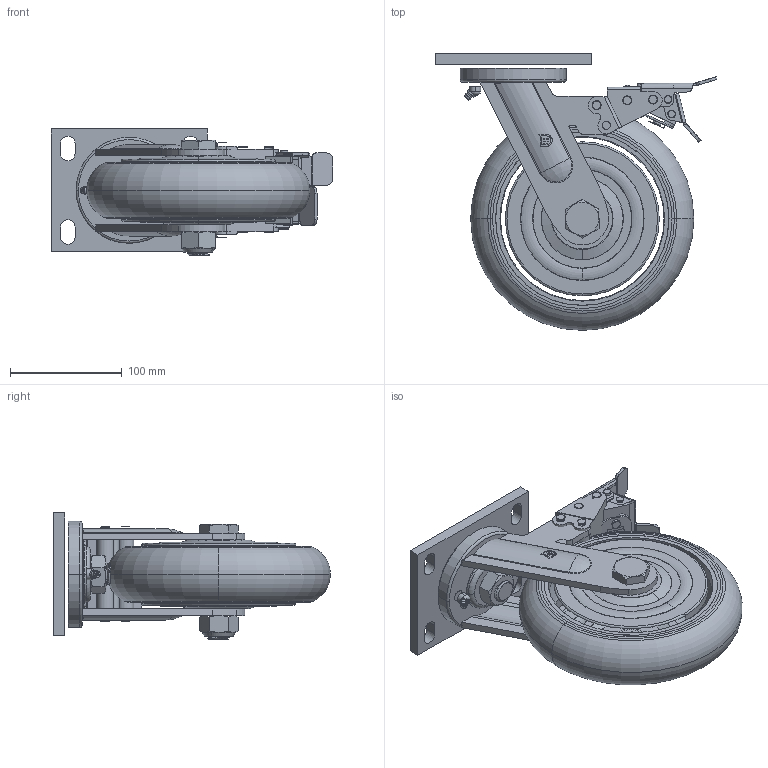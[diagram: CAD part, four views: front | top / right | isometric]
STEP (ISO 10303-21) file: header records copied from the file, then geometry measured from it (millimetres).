
FILE_DESCRIPTION((''),'2;1');
FILE_NAME('PRT0002','2025-04-15T17:50:05',('Administrator'),(''),'CREO PARAMETRIC BY PTC INC, 2022124','CREO PARAMETRIC BY PTC INC, 2022124','');
FILE_SCHEMA(('AP203_CONFIGURATION_CONTROLLED_3D_DESIGN_OF_MECHANICAL_PARTS_AND_ASSEMBLIES_MIM_LF { 1 0 10303 403 2 1 2 }'));
Length unit declared in the file: millimetre
Products named in the file (1): PRT0002
Bounding box: 252.75 x 248 x 113 mm (x, y, z)
Surface area: 238492.3 mm2 (no closed solid volume)
Topology: 0 solids, 55 shells, 352 faces, 1350 edges, 1044 vertices
Faces by surface type: plane 152, cylinder 90, torus 54, cone 39, bspline 16, extrusion 1
Entity records: 19611 total; most frequent: CARTESIAN_POINT 5865, DIRECTION 2347, ORIENTED_EDGE 1991, EDGE_CURVE 1350, VERTEX_POINT 1044, AXIS2_PLACEMENT_3D 828, VECTOR 688, LINE 687
